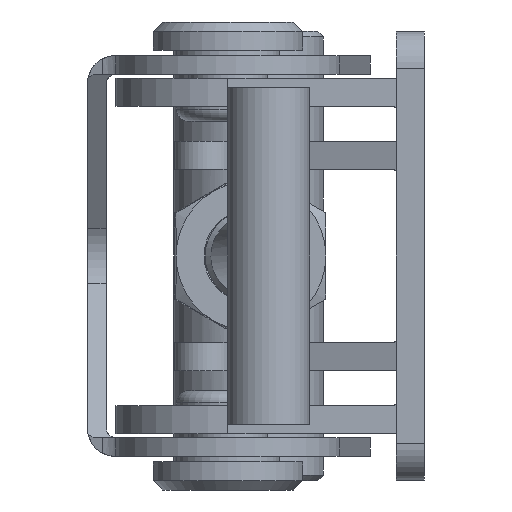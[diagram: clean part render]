
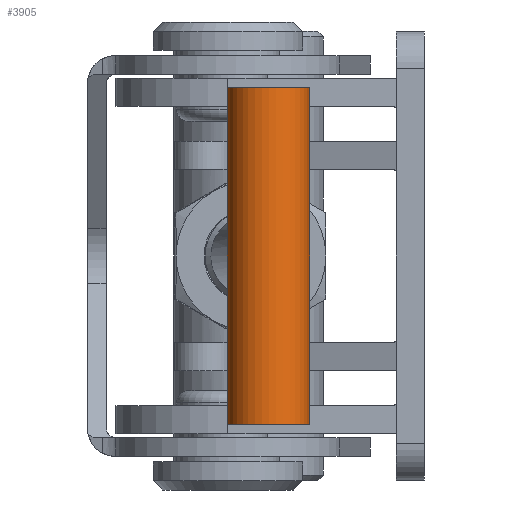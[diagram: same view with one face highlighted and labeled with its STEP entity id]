
A CAD part, left-side view. The second image highlights one B-rep face of the part: STEP entity #3905.
In plain terms, the highlighted cylindrical face has radius 2.2 mm (diameter 4.4 mm), a full revolution.
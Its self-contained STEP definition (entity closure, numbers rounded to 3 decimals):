
#269=CIRCLE('',#4245,2.2);
#270=CIRCLE('',#4246,2.2);
#444=ELLIPSE('',#4235,3.111,2.2);
#445=ELLIPSE('',#4236,3.111,2.2);
#706=ORIENTED_EDGE('',*,*,#1702,.F.);
#707=ORIENTED_EDGE('',*,*,#1697,.T.);
#708=ORIENTED_EDGE('',*,*,#1698,.T.);
#709=ORIENTED_EDGE('',*,*,#1703,.T.);
#1697=EDGE_CURVE('',#2219,#2220,#444,.F.);
#1698=EDGE_CURVE('',#2220,#2219,#445,.F.);
#1702=EDGE_CURVE('',#2224,#2224,#269,.T.);
#1703=EDGE_CURVE('',#2225,#2225,#270,.T.);
#2219=VERTEX_POINT('',#6080);
#2220=VERTEX_POINT('',#6081);
#2224=VERTEX_POINT('',#6095);
#2225=VERTEX_POINT('',#6097);
#3172=EDGE_LOOP('',(#706));
#3173=EDGE_LOOP('',(#707,#708));
#3174=EDGE_LOOP('',(#709));
#3493=FACE_BOUND('',#3172,.T.);
#3494=FACE_BOUND('',#3173,.T.);
#3495=FACE_BOUND('',#3174,.T.);
#3778=CYLINDRICAL_SURFACE('',#4244,2.2);
#3905=ADVANCED_FACE('',(#3493,#3494,#3495),#3778,.T.);
#4235=AXIS2_PLACEMENT_3D('',#6079,#4866,#4867);
#4236=AXIS2_PLACEMENT_3D('',#6082,#4868,#4869);
#4244=AXIS2_PLACEMENT_3D('',#6093,#4884,#4885);
#4245=AXIS2_PLACEMENT_3D('',#6094,#4886,#4887);
#4246=AXIS2_PLACEMENT_3D('',#6096,#4888,#4889);
#4866=DIRECTION('',(0.707,0.,-0.707));
#4867=DIRECTION('',(0.707,0.,0.707));
#4868=DIRECTION('',(0.707,0.,0.707));
#4869=DIRECTION('',(0.707,0.,-0.707));
#4884=DIRECTION('',(0.,0.,-1.));
#4885=DIRECTION('',(-1.,0.,0.));
#4886=DIRECTION('',(0.,0.,-1.));
#4887=DIRECTION('',(-1.,0.,0.));
#4888=DIRECTION('',(0.,0.,-1.));
#4889=DIRECTION('',(-1.,0.,0.));
#6079=CARTESIAN_POINT('',(-51.014,0.,0.));
#6080=CARTESIAN_POINT('',(-51.014,-2.2,0.));
#6081=CARTESIAN_POINT('',(-51.014,2.2,0.));
#6082=CARTESIAN_POINT('',(-51.014,0.,0.));
#6093=CARTESIAN_POINT('',(-51.014,0.,-9.));
#6094=CARTESIAN_POINT('',(-51.014,0.,-9.));
#6095=CARTESIAN_POINT('',(-53.214,0.,-9.));
#6096=CARTESIAN_POINT('',(-51.014,0.,9.));
#6097=CARTESIAN_POINT('',(-53.214,0.,9.));
